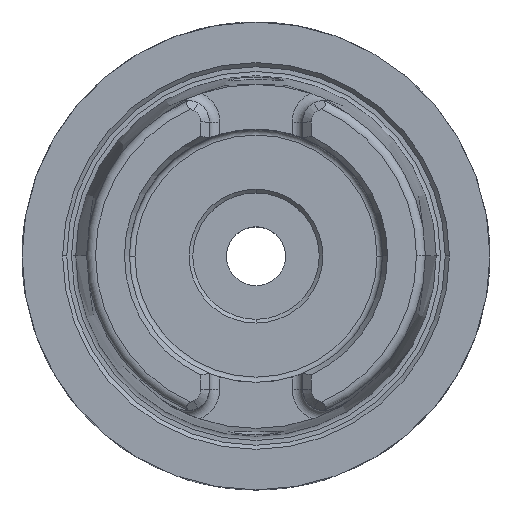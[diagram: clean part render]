
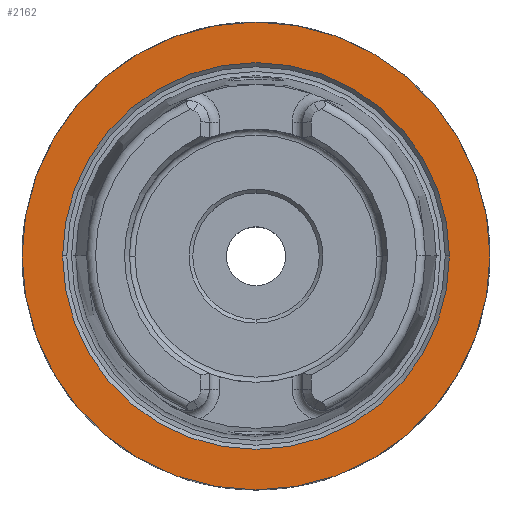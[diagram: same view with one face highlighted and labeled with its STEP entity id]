
A CAD part, top view. The second image highlights one B-rep face of the part: STEP entity #2162.
In plain terms, the highlighted planar face has unit normal (0, 0, 1).
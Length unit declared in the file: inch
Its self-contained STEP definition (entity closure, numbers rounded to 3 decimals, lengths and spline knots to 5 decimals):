
#36 = AXIS2_PLACEMENT_3D ( 'NONE', #5900, #5448, #623 ) ;
#107 = DIRECTION ( 'NONE',  ( -1., 0., 0. ) ) ;
#144 = CARTESIAN_POINT ( 'NONE',  ( 0., 0., 0. ) ) ;
#161 = CIRCLE ( 'NONE', #5324, 1.23898 ) ;
#584 = CARTESIAN_POINT ( 'NONE',  ( 0., 0., 0. ) ) ;
#623 = DIRECTION ( 'NONE',  ( 1., 0., 0. ) ) ;
#785 = CARTESIAN_POINT ( 'NONE',  ( -1.02397, 0., 0. ) ) ;
#1377 = ORIENTED_EDGE ( 'NONE', *, *, #3405, .F. ) ;
#1726 = EDGE_LOOP ( 'NONE', ( #6411, #1377 ) ) ;
#1937 = EDGE_CURVE ( 'NONE', #2525, #6870, #4547, .T. ) ;
#1984 = EDGE_CURVE ( 'NONE', #4956, #3617, #161, .T. ) ;
#2162 = ADVANCED_FACE ( 'NONE', ( #6736, #3523 ), #6835, .T. ) ;
#2343 = ORIENTED_EDGE ( 'NONE', *, *, #1984, .F. ) ;
#2525 = VERTEX_POINT ( 'NONE', #4196 ) ;
#2746 = EDGE_CURVE ( 'NONE', #3617, #4956, #2756, .T. ) ;
#2750 = CIRCLE ( 'NONE', #6557, 1.02397 ) ;
#2756 = CIRCLE ( 'NONE', #5890, 1.23898 ) ;
#2987 = AXIS2_PLACEMENT_3D ( 'NONE', #6307, #5652, #6707 ) ;
#3277 = CARTESIAN_POINT ( 'NONE',  ( 1.23898, 0., 0. ) ) ;
#3405 = EDGE_CURVE ( 'NONE', #6870, #2525, #2750, .T. ) ;
#3523 = FACE_BOUND ( 'NONE', #1726, .T. ) ;
#3617 = VERTEX_POINT ( 'NONE', #4452 ) ;
#3729 = DIRECTION ( 'NONE',  ( 0., 0., -1. ) ) ;
#4196 = CARTESIAN_POINT ( 'NONE',  ( 1.02397, 0., 0. ) ) ;
#4293 = DIRECTION ( 'NONE',  ( -1., 0., 0. ) ) ;
#4410 = EDGE_LOOP ( 'NONE', ( #6609, #2343 ) ) ;
#4452 = CARTESIAN_POINT ( 'NONE',  ( -1.23898, 0., 0. ) ) ;
#4547 = CIRCLE ( 'NONE', #36, 1.02397 ) ;
#4690 = CARTESIAN_POINT ( 'NONE',  ( 0., 0., 0. ) ) ;
#4923 = DIRECTION ( 'NONE',  ( 0., 0., -1. ) ) ;
#4956 = VERTEX_POINT ( 'NONE', #3277 ) ;
#5182 = DIRECTION ( 'NONE',  ( 1., 0., 0. ) ) ;
#5215 = DIRECTION ( 'NONE',  ( 0., 0., 1. ) ) ;
#5324 = AXIS2_PLACEMENT_3D ( 'NONE', #584, #3729, #4293 ) ;
#5448 = DIRECTION ( 'NONE',  ( 0., 0., 1. ) ) ;
#5652 = DIRECTION ( 'NONE',  ( 0., 0., 1. ) ) ;
#5890 = AXIS2_PLACEMENT_3D ( 'NONE', #144, #4923, #107 ) ;
#5900 = CARTESIAN_POINT ( 'NONE',  ( 0., 0., 0. ) ) ;
#6307 = CARTESIAN_POINT ( 'NONE',  ( 0., 0.9575, 0. ) ) ;
#6411 = ORIENTED_EDGE ( 'NONE', *, *, #1937, .F. ) ;
#6557 = AXIS2_PLACEMENT_3D ( 'NONE', #4690, #5215, #5182 ) ;
#6609 = ORIENTED_EDGE ( 'NONE', *, *, #2746, .F. ) ;
#6707 = DIRECTION ( 'NONE',  ( 1., 0., 0. ) ) ;
#6736 = FACE_OUTER_BOUND ( 'NONE', #4410, .T. ) ;
#6835 = PLANE ( 'NONE',  #2987 ) ;
#6870 = VERTEX_POINT ( 'NONE', #785 ) ;
